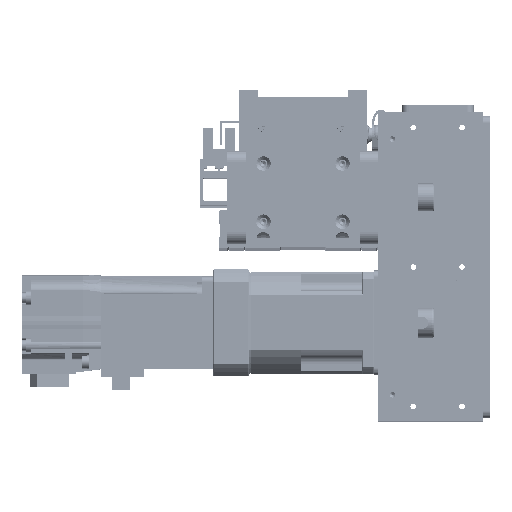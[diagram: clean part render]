
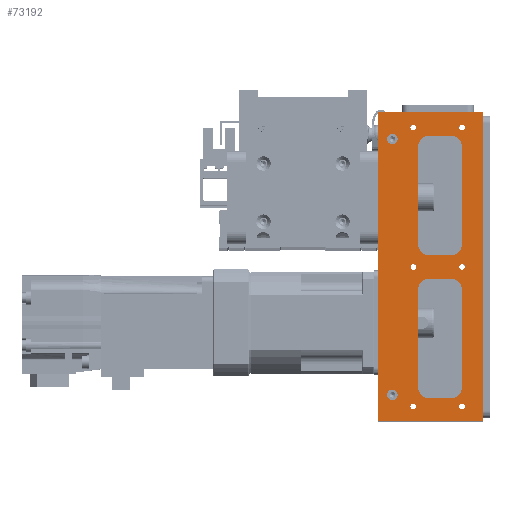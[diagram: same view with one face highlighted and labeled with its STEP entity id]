
A CAD part, top view. The second image highlights one B-rep face of the part: STEP entity #73192.
In plain terms, the highlighted planar face has unit normal (0, 0, 1) as drawn and (0, 1, 0) by its records, which use the part's own axes.
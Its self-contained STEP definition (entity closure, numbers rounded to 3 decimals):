
#1797=FACE_BOUND('',#11743,.T.);
#1798=FACE_BOUND('',#11744,.T.);
#1799=FACE_BOUND('',#11745,.T.);
#1800=FACE_BOUND('',#11746,.T.);
#1801=FACE_BOUND('',#11747,.T.);
#1802=FACE_BOUND('',#11748,.T.);
#1803=FACE_BOUND('',#11749,.T.);
#1804=FACE_BOUND('',#11750,.T.);
#1805=FACE_BOUND('',#11751,.T.);
#1806=FACE_BOUND('',#11752,.T.);
#3460=PLANE('',#80465);
#7257=FACE_OUTER_BOUND('',#11742,.T.);
#11742=EDGE_LOOP('',(#63104,#63105,#63106,#63107));
#11743=EDGE_LOOP('',(#63108));
#11744=EDGE_LOOP('',(#63109));
#11745=EDGE_LOOP('',(#63110));
#11746=EDGE_LOOP('',(#63111));
#11747=EDGE_LOOP('',(#63112));
#11748=EDGE_LOOP('',(#63113));
#11749=EDGE_LOOP('',(#63114));
#11750=EDGE_LOOP('',(#63115));
#11751=EDGE_LOOP('',(#63116,#63117,#63118,#63119,#63120,#63121,#63122,#63123));
#11752=EDGE_LOOP('',(#63124,#63125,#63126,#63127,#63128,#63129,#63130,#63131));
#15614=CIRCLE('',#80286,2.25);
#15618=CIRCLE('',#80292,2.25);
#15629=CIRCLE('',#80313,1.23);
#15633=CIRCLE('',#80319,1.23);
#15637=CIRCLE('',#80325,1.23);
#15641=CIRCLE('',#80331,1.23);
#15645=CIRCLE('',#80337,1.23);
#15649=CIRCLE('',#80343,1.23);
#15682=CIRCLE('',#80396,5.);
#15686=CIRCLE('',#80405,5.);
#15690=CIRCLE('',#80411,5.);
#15692=CIRCLE('',#80417,5.);
#15698=CIRCLE('',#80428,5.);
#15702=CIRCLE('',#80437,5.);
#15706=CIRCLE('',#80443,5.);
#15708=CIRCLE('',#80449,5.);
#20263=LINE('',#121575,#27799);
#20278=LINE('',#121605,#27814);
#20349=LINE('',#121895,#27885);
#20354=LINE('',#121906,#27890);
#20361=LINE('',#121931,#27897);
#20366=LINE('',#121942,#27902);
#20381=LINE('',#121991,#27917);
#20386=LINE('',#122002,#27922);
#20393=LINE('',#122027,#27929);
#20398=LINE('',#122038,#27934);
#20418=LINE('',#122088,#27954);
#20419=LINE('',#122090,#27955);
#27799=VECTOR('',#96296,10.);
#27814=VECTOR('',#96315,10.);
#27885=VECTOR('',#96630,10.);
#27890=VECTOR('',#96639,10.);
#27897=VECTOR('',#96666,10.);
#27902=VECTOR('',#96675,10.);
#27917=VECTOR('',#96726,10.);
#27922=VECTOR('',#96735,10.);
#27929=VECTOR('',#96762,10.);
#27934=VECTOR('',#96771,10.);
#27954=VECTOR('',#96827,10.);
#27955=VECTOR('',#96830,10.);
#35609=VERTEX_POINT('',#121572);
#35610=VERTEX_POINT('',#121574);
#35623=VERTEX_POINT('',#121603);
#35628=VERTEX_POINT('',#121623);
#35632=VERTEX_POINT('',#121635);
#35651=VERTEX_POINT('',#121693);
#35655=VERTEX_POINT('',#121705);
#35659=VERTEX_POINT('',#121717);
#35663=VERTEX_POINT('',#121729);
#35667=VERTEX_POINT('',#121741);
#35671=VERTEX_POINT('',#121753);
#35713=VERTEX_POINT('',#121876);
#35714=VERTEX_POINT('',#121878);
#35720=VERTEX_POINT('',#121893);
#35724=VERTEX_POINT('',#121905);
#35726=VERTEX_POINT('',#121911);
#35730=VERTEX_POINT('',#121923);
#35732=VERTEX_POINT('',#121929);
#35736=VERTEX_POINT('',#121941);
#35745=VERTEX_POINT('',#121972);
#35746=VERTEX_POINT('',#121974);
#35752=VERTEX_POINT('',#121989);
#35756=VERTEX_POINT('',#122001);
#35758=VERTEX_POINT('',#122007);
#35762=VERTEX_POINT('',#122019);
#35764=VERTEX_POINT('',#122025);
#35768=VERTEX_POINT('',#122037);
#35780=VERTEX_POINT('',#122086);
#44990=EDGE_CURVE('',#35609,#35610,#20263,.T.);
#45006=EDGE_CURVE('',#35623,#35609,#20278,.T.);
#45016=EDGE_CURVE('',#35628,#35628,#15614,.T.);
#45022=EDGE_CURVE('',#35632,#35632,#15618,.T.);
#45050=EDGE_CURVE('',#35651,#35651,#15629,.T.);
#45056=EDGE_CURVE('',#35655,#35655,#15633,.T.);
#45062=EDGE_CURVE('',#35659,#35659,#15637,.T.);
#45068=EDGE_CURVE('',#35663,#35663,#15641,.T.);
#45074=EDGE_CURVE('',#35667,#35667,#15645,.T.);
#45080=EDGE_CURVE('',#35671,#35671,#15649,.T.);
#45142=EDGE_CURVE('',#35714,#35713,#15682,.T.);
#45150=EDGE_CURVE('',#35713,#35720,#20349,.T.);
#45155=EDGE_CURVE('',#35724,#35714,#20354,.T.);
#45159=EDGE_CURVE('',#35720,#35726,#15686,.T.);
#45164=EDGE_CURVE('',#35730,#35724,#15690,.T.);
#45168=EDGE_CURVE('',#35726,#35732,#20361,.T.);
#45173=EDGE_CURVE('',#35736,#35730,#20366,.T.);
#45176=EDGE_CURVE('',#35732,#35736,#15692,.T.);
#45190=EDGE_CURVE('',#35746,#35745,#15698,.T.);
#45198=EDGE_CURVE('',#35745,#35752,#20381,.T.);
#45203=EDGE_CURVE('',#35756,#35746,#20386,.T.);
#45207=EDGE_CURVE('',#35752,#35758,#15702,.T.);
#45212=EDGE_CURVE('',#35762,#35756,#15706,.T.);
#45216=EDGE_CURVE('',#35758,#35764,#20393,.T.);
#45221=EDGE_CURVE('',#35768,#35762,#20398,.T.);
#45224=EDGE_CURVE('',#35764,#35768,#15708,.T.);
#45247=EDGE_CURVE('',#35780,#35610,#20418,.T.);
#45248=EDGE_CURVE('',#35623,#35780,#20419,.T.);
#63104=ORIENTED_EDGE('',*,*,#45248,.T.);
#63105=ORIENTED_EDGE('',*,*,#45247,.T.);
#63106=ORIENTED_EDGE('',*,*,#44990,.F.);
#63107=ORIENTED_EDGE('',*,*,#45006,.F.);
#63108=ORIENTED_EDGE('',*,*,#45016,.T.);
#63109=ORIENTED_EDGE('',*,*,#45022,.T.);
#63110=ORIENTED_EDGE('',*,*,#45050,.T.);
#63111=ORIENTED_EDGE('',*,*,#45056,.T.);
#63112=ORIENTED_EDGE('',*,*,#45062,.T.);
#63113=ORIENTED_EDGE('',*,*,#45068,.T.);
#63114=ORIENTED_EDGE('',*,*,#45074,.T.);
#63115=ORIENTED_EDGE('',*,*,#45080,.T.);
#63116=ORIENTED_EDGE('',*,*,#45176,.T.);
#63117=ORIENTED_EDGE('',*,*,#45173,.T.);
#63118=ORIENTED_EDGE('',*,*,#45164,.T.);
#63119=ORIENTED_EDGE('',*,*,#45155,.T.);
#63120=ORIENTED_EDGE('',*,*,#45142,.T.);
#63121=ORIENTED_EDGE('',*,*,#45150,.T.);
#63122=ORIENTED_EDGE('',*,*,#45159,.T.);
#63123=ORIENTED_EDGE('',*,*,#45168,.T.);
#63124=ORIENTED_EDGE('',*,*,#45224,.T.);
#63125=ORIENTED_EDGE('',*,*,#45221,.T.);
#63126=ORIENTED_EDGE('',*,*,#45212,.T.);
#63127=ORIENTED_EDGE('',*,*,#45203,.T.);
#63128=ORIENTED_EDGE('',*,*,#45190,.T.);
#63129=ORIENTED_EDGE('',*,*,#45198,.T.);
#63130=ORIENTED_EDGE('',*,*,#45207,.T.);
#63131=ORIENTED_EDGE('',*,*,#45216,.T.);
#73192=ADVANCED_FACE('',(#7257,#1797,#1798,#1799,#1800,#1801,#1802,#1803,
#1804,#1805,#1806),#3460,.T.);
#80286=AXIS2_PLACEMENT_3D('',#121625,#96337,#96338);
#80292=AXIS2_PLACEMENT_3D('',#121637,#96351,#96352);
#80313=AXIS2_PLACEMENT_3D('',#121694,#96410,#96411);
#80319=AXIS2_PLACEMENT_3D('',#121706,#96424,#96425);
#80325=AXIS2_PLACEMENT_3D('',#121718,#96438,#96439);
#80331=AXIS2_PLACEMENT_3D('',#121730,#96452,#96453);
#80337=AXIS2_PLACEMENT_3D('',#121742,#96466,#96467);
#80343=AXIS2_PLACEMENT_3D('',#121754,#96480,#96481);
#80396=AXIS2_PLACEMENT_3D('',#121879,#96615,#96616);
#80405=AXIS2_PLACEMENT_3D('',#121913,#96646,#96647);
#80411=AXIS2_PLACEMENT_3D('',#121924,#96659,#96660);
#80417=AXIS2_PLACEMENT_3D('',#121946,#96681,#96682);
#80428=AXIS2_PLACEMENT_3D('',#121975,#96711,#96712);
#80437=AXIS2_PLACEMENT_3D('',#122009,#96742,#96743);
#80443=AXIS2_PLACEMENT_3D('',#122020,#96755,#96756);
#80449=AXIS2_PLACEMENT_3D('',#122042,#96777,#96778);
#80465=AXIS2_PLACEMENT_3D('',#122089,#96828,#96829);
#96296=DIRECTION('',(1.,0.,0.));
#96315=DIRECTION('',(0.,0.,-1.));
#96337=DIRECTION('center_axis',(0.,-1.,0.));
#96338=DIRECTION('ref_axis',(1.,0.,0.));
#96351=DIRECTION('center_axis',(0.,-1.,0.));
#96352=DIRECTION('ref_axis',(1.,0.,0.));
#96410=DIRECTION('center_axis',(0.,-1.,0.));
#96411=DIRECTION('ref_axis',(1.,0.,0.));
#96424=DIRECTION('center_axis',(0.,-1.,0.));
#96425=DIRECTION('ref_axis',(1.,0.,0.));
#96438=DIRECTION('center_axis',(0.,-1.,0.));
#96439=DIRECTION('ref_axis',(1.,0.,0.));
#96452=DIRECTION('center_axis',(0.,-1.,0.));
#96453=DIRECTION('ref_axis',(1.,0.,0.));
#96466=DIRECTION('center_axis',(0.,-1.,0.));
#96467=DIRECTION('ref_axis',(1.,0.,0.));
#96480=DIRECTION('center_axis',(0.,-1.,0.));
#96481=DIRECTION('ref_axis',(1.,0.,0.));
#96615=DIRECTION('center_axis',(0.,-1.,0.));
#96616=DIRECTION('ref_axis',(0.,0.,-1.));
#96630=DIRECTION('',(-1.,0.,0.));
#96639=DIRECTION('',(0.,0.,1.));
#96646=DIRECTION('center_axis',(0.,-1.,0.));
#96647=DIRECTION('ref_axis',(1.,0.,0.));
#96659=DIRECTION('center_axis',(0.,-1.,0.));
#96660=DIRECTION('ref_axis',(-1.,0.,0.));
#96666=DIRECTION('',(0.,0.,-1.));
#96675=DIRECTION('',(1.,0.,0.));
#96681=DIRECTION('center_axis',(0.,-1.,0.));
#96682=DIRECTION('ref_axis',(0.,0.,1.));
#96711=DIRECTION('center_axis',(0.,-1.,0.));
#96712=DIRECTION('ref_axis',(1.,0.,0.));
#96726=DIRECTION('',(0.,0.,-1.));
#96735=DIRECTION('',(-1.,0.,0.));
#96742=DIRECTION('center_axis',(0.,-1.,0.));
#96743=DIRECTION('ref_axis',(0.,0.,1.));
#96755=DIRECTION('center_axis',(0.,-1.,0.));
#96756=DIRECTION('ref_axis',(0.,0.,-1.));
#96762=DIRECTION('',(1.,0.,0.));
#96771=DIRECTION('',(0.,0.,1.));
#96777=DIRECTION('center_axis',(0.,-1.,0.));
#96778=DIRECTION('ref_axis',(-1.,0.,0.));
#96827=DIRECTION('',(0.,0.,-1.));
#96828=DIRECTION('center_axis',(0.,1.,0.));
#96829=DIRECTION('ref_axis',(1.,0.,0.));
#96830=DIRECTION('',(1.,0.,0.));
#121572=CARTESIAN_POINT('',(-66.5,28.,-45.));
#121574=CARTESIAN_POINT('',(66.5,28.,-45.));
#121575=CARTESIAN_POINT('',(-66.5,28.,-45.));
#121603=CARTESIAN_POINT('',(-66.5,28.,0.));
#121605=CARTESIAN_POINT('',(-66.5,28.,0.));
#121623=CARTESIAN_POINT('',(52.75,28.,-39.));
#121625=CARTESIAN_POINT('Origin',(55.,28.,-39.));
#121635=CARTESIAN_POINT('',(-57.25,28.,-39.));
#121637=CARTESIAN_POINT('Origin',(-55.,28.,-39.));
#121693=CARTESIAN_POINT('',(58.771,28.,-30.));
#121694=CARTESIAN_POINT('Origin',(60.,28.,-30.));
#121705=CARTESIAN_POINT('',(-61.23,28.,-30.));
#121706=CARTESIAN_POINT('Origin',(-60.,28.,-30.));
#121717=CARTESIAN_POINT('',(-1.23,28.,-30.));
#121718=CARTESIAN_POINT('Origin',(0.,28.,-30.));
#121729=CARTESIAN_POINT('',(-1.23,28.,-9.));
#121730=CARTESIAN_POINT('Origin',(0.,28.,-9.));
#121741=CARTESIAN_POINT('',(-61.23,28.,-9.));
#121742=CARTESIAN_POINT('Origin',(-60.,28.,-9.));
#121753=CARTESIAN_POINT('',(58.771,28.,-9.));
#121754=CARTESIAN_POINT('Origin',(60.,28.,-9.));
#121876=CARTESIAN_POINT('',(-10.,28.,-9.));
#121878=CARTESIAN_POINT('',(-5.,28.,-14.));
#121879=CARTESIAN_POINT('Origin',(-10.,28.,-14.));
#121893=CARTESIAN_POINT('',(-51.5,28.,-9.));
#121895=CARTESIAN_POINT('',(-38.25,28.,-9.));
#121905=CARTESIAN_POINT('',(-5.,28.,-23.));
#121906=CARTESIAN_POINT('',(-5.,28.,-11.5));
#121911=CARTESIAN_POINT('',(-56.5,28.,-14.));
#121913=CARTESIAN_POINT('Origin',(-51.5,28.,-14.));
#121923=CARTESIAN_POINT('',(-10.,28.,-28.));
#121924=CARTESIAN_POINT('Origin',(-10.,28.,-23.));
#121929=CARTESIAN_POINT('',(-56.5,28.,-23.));
#121931=CARTESIAN_POINT('',(-56.5,28.,-7.));
#121941=CARTESIAN_POINT('',(-51.5,28.,-28.));
#121942=CARTESIAN_POINT('',(-59.,28.,-28.));
#121946=CARTESIAN_POINT('Origin',(-51.5,28.,-23.));
#121972=CARTESIAN_POINT('',(5.,28.,-14.));
#121974=CARTESIAN_POINT('',(10.,28.,-9.));
#121975=CARTESIAN_POINT('Origin',(10.,28.,-14.));
#121989=CARTESIAN_POINT('',(5.,28.,-23.));
#121991=CARTESIAN_POINT('',(5.,28.,-7.));
#122001=CARTESIAN_POINT('',(51.5,28.,-9.));
#122002=CARTESIAN_POINT('',(-7.5,28.,-9.));
#122007=CARTESIAN_POINT('',(10.,28.,-28.));
#122009=CARTESIAN_POINT('Origin',(10.,28.,-23.));
#122019=CARTESIAN_POINT('',(56.5,28.,-14.));
#122020=CARTESIAN_POINT('Origin',(51.5,28.,-14.));
#122025=CARTESIAN_POINT('',(51.5,28.,-28.));
#122027=CARTESIAN_POINT('',(-28.25,28.,-28.));
#122037=CARTESIAN_POINT('',(56.5,28.,-23.));
#122038=CARTESIAN_POINT('',(56.5,28.,-11.5));
#122042=CARTESIAN_POINT('Origin',(51.5,28.,-23.));
#122086=CARTESIAN_POINT('',(66.5,28.,0.));
#122088=CARTESIAN_POINT('',(66.5,28.,0.));
#122089=CARTESIAN_POINT('Origin',(-66.5,28.,0.));
#122090=CARTESIAN_POINT('',(-66.5,28.,0.));
